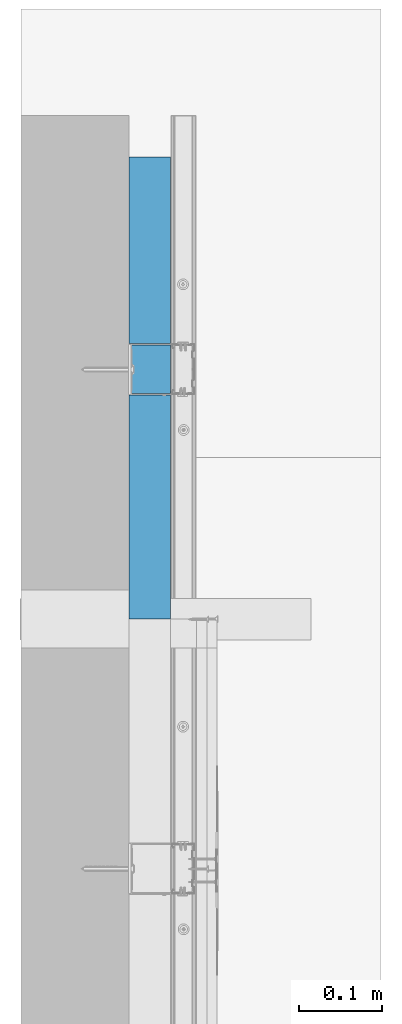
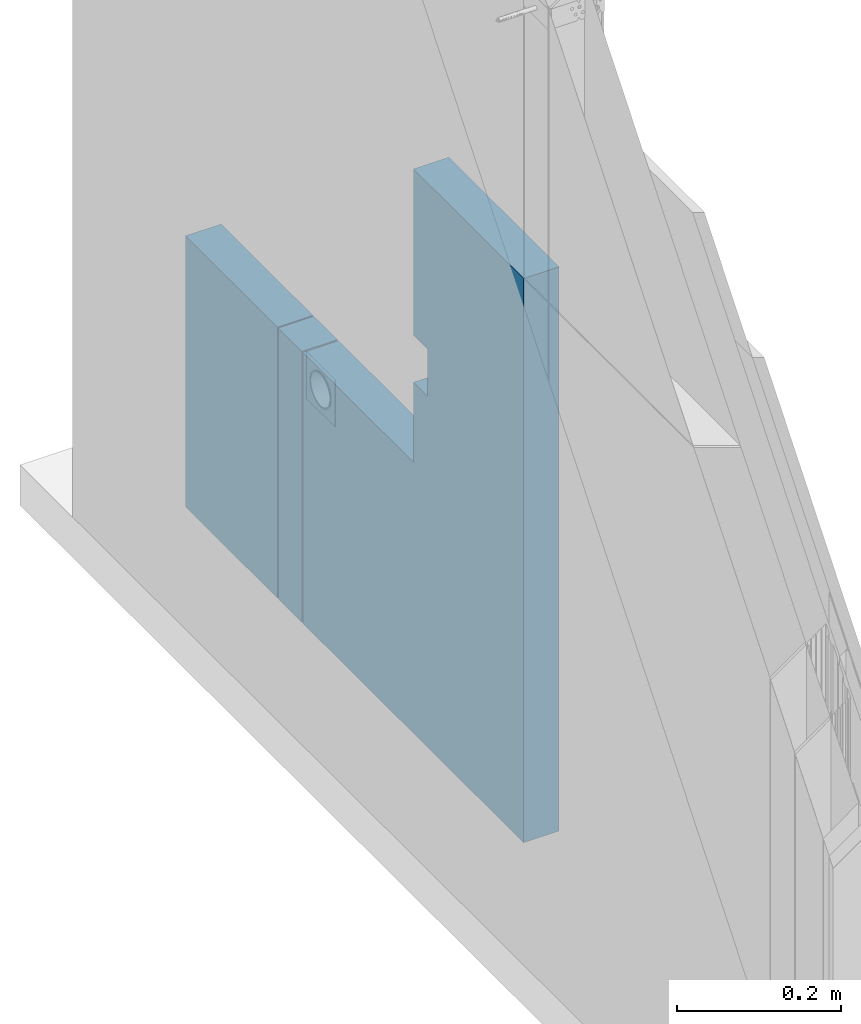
# One storey, part 11 of 61: 3 walls.
"""IFC2X3 building model written with IfcOpenShell, lengths in millimetres."""

import ifcopenshell
import ifcopenshell.guid

model = None  # the IFC model being written
_history = None  # IfcOwnerHistory: only IFC2X3 demands one
_inside = {}  # id of a spatial element -> (the spatial element, [elements in it])
_under = {}  # id of a project, library or spatial element -> (it, [spatial elements below it])
_declared = {}  # id of a project -> (the project, [libraries it declares])
_typed = {}  # id of a type object -> (the type object, [elements of that type])
_made_of = {}  # id of a material, layer set ... -> (it, [elements and type objects made of it])


def new_model(schema):
    """Start an empty IFC model of exactly this schema.

    Asked for "IFC4X3", IfcOpenShell would pick the latest addendum, in which some entities
    have other attributes; the version numbers below select the first issue.
    IFC2X3 requires an IfcOwnerHistory on every rooted entity: one is made here for all.
    """
    global model, _history
    if schema == "IFC4X3":
        model = ifcopenshell.file(schema_version=(4, 3, 0, 0))
    else:
        model = ifcopenshell.file(schema=schema)
    _inside.clear()
    _under.clear()
    _declared.clear()
    _typed.clear()
    _made_of.clear()
    _history = None
    if model.schema == "IFC2X3":
        org = make("IfcOrganization", Name="unknown")
        user = make(
            "IfcPersonAndOrganization",
            ThePerson=make("IfcPerson", FamilyName="unknown"),
            TheOrganization=org,
        )
        app = make(
            "IfcApplication",
            ApplicationDeveloper=org,
            Version="unknown",
            ApplicationFullName="unknown",
            ApplicationIdentifier="unknown",
        )
        _history = make(
            "IfcOwnerHistory",
            OwningUser=user,
            OwningApplication=app,
            ChangeAction="ADDED",
            CreationDate=0,
        )
    return model


def make(cls, **values):
    """One entity of the class cls with the attributes given. An attribute that is None is left unset."""
    return model.create_entity(
        cls, **{name: value for name, value in values.items() if value is not None}
    )


def rooted(cls, **values):
    """An entity with a GlobalId (a new one), such as an element, a storey or a relation."""
    return make(cls, GlobalId=ifcopenshell.guid.new(), OwnerHistory=_history, **values)


def si_unit(unit_type, name, prefix=None):
    """IfcSIUnit, for example si_unit("LENGTHUNIT", "METRE", prefix="MILLI")."""
    return make("IfcSIUnit", UnitType=unit_type, Prefix=prefix, Name=name)


def assignment(units):
    """IfcUnitAssignment: the units of a project."""
    return None if units is None else make("IfcUnitAssignment", Units=units)


def point(xyz):
    """IfcCartesianPoint."""
    return None if xyz is None else make("IfcCartesianPoint", Coordinates=xyz)


def direction(xyz):
    """IfcDirection."""
    return None if xyz is None else make("IfcDirection", DirectionRatios=xyz)


def frame(location, z_axis=None, x_axis=None):
    """IfcAxis2Placement3D, a coordinate frame: its origin and axes. An axis left out is left unset."""
    return make(
        "IfcAxis2Placement3D",
        Location=point(location),
        Axis=direction(z_axis),
        RefDirection=direction(x_axis),
    )


def origin_with_axes():
    """The frame at (0, 0, 0) with the z axis (0, 0, 1) and the x axis (1, 0, 0) written out."""
    return frame((0.0, 0.0, 0.0), z_axis=(0.0, 0.0, 1.0), x_axis=(1.0, 0.0, 0.0))


def place(relative_to, where):
    """IfcLocalPlacement: puts the frame where relative to a parent placement (None: the world)."""
    return make(
        "IfcLocalPlacement", PlacementRelTo=relative_to, RelativePlacement=where
    )


def context(
    kind, dimensions, precision=None, world=None, true_north=None, identifier=None
):
    """IfcGeometricRepresentationContext, for example the 3D "Model" context."""
    return make(
        "IfcGeometricRepresentationContext",
        ContextIdentifier=identifier,
        ContextType=kind,
        CoordinateSpaceDimension=dimensions,
        Precision=precision,
        WorldCoordinateSystem=world,
        TrueNorth=true_north,
    )


def subcontext(parent, identifier, kind, view, scale=None):
    """IfcGeometricRepresentationSubContext, for example "Body" below "Model"."""
    return make(
        "IfcGeometricRepresentationSubContext",
        ContextIdentifier=identifier,
        ContextType=kind,
        ParentContext=parent,
        TargetScale=scale,
        TargetView=view,
    )


def project(units=None, contexts=None):
    """IfcProject with its units and contexts."""
    return rooted(
        "IfcProject",
        Name="project",
        RepresentationContexts=contexts,
        UnitsInContext=assignment(units),
    )


def spatial(cls, under=None, at=None, **own):
    """A site, building, storey or space (cls), placed at a placement, below another one or the project."""
    s = rooted(cls, ObjectPlacement=at, **own)
    if under is not None:
        _under.setdefault(under.id(), (under, []))[1].append(s)
    return s


def faces_of(points, faces, orient=None, outer=None):
    """IfcFace entities. A face is a list of loops; a loop is a list of indices into points, from 0.

    orient and outer hold one flag for each loop. By default every Orientation is true, the
    first loop of a face is its IfcFaceOuterBound and the others are IfcFaceBound.
    """
    made = []
    for i, loops in enumerate(faces):
        bounds = []
        for j, loop in enumerate(loops):
            is_outer = j == 0 if outer is None else outer[i][j]
            bounds.append(
                make(
                    "IfcFaceOuterBound" if is_outer else "IfcFaceBound",
                    Bound=make("IfcPolyLoop", Polygon=[points[k] for k in loop]),
                    Orientation=True if orient is None else orient[i][j],
                )
            )
        made.append(make("IfcFace", Bounds=bounds))
    return made


def faceted_brep(points, faces, orient=None, outer=None, voids=None):
    """IfcFacetedBrep: a solid bounded by flat faces; with voids (closed shells), ...WithVoids."""
    shared = [point(p) for p in points]
    hull = make("IfcClosedShell", CfsFaces=faces_of(shared, faces, orient, outer))
    if voids is None:
        return make("IfcFacetedBrep", Outer=hull)
    return make(
        "IfcFacetedBrepWithVoids",
        Outer=hull,
        Voids=[
            make(cls, CfsFaces=faces_of(shared, fs, o, b)) for cls, fs, o, b in voids
        ],
    )


def shape(context_of_items, identifier, shape_type, items):
    """IfcShapeRepresentation: the items that make up one representation, for example the "Body"."""
    return make(
        "IfcShapeRepresentation",
        ContextOfItems=context_of_items,
        RepresentationIdentifier=identifier,
        RepresentationType=shape_type,
        Items=items,
    )


def material(Name=None, Category=None):
    """IfcMaterial."""
    return make("IfcMaterial", Name=Name, Category=Category)


def made_of(thing, what):
    """Note that an element or type object is made of a material, layer set ...; save() writes the relation."""
    if what is not None:
        _made_of.setdefault(what.id(), (what, []))[1].append(thing)
    return thing


def type_object(cls, material=None, **own):
    """A type object (cls), such as IfcWallType, which elements share."""
    return made_of(rooted(cls, **own), material)


def element(
    cls,
    number,
    at=None,
    inside=None,
    cuts=None,
    type_object=None,
    material=None,
    context=None,
    identifier="Body",
    shape_type=None,
    held_by="IfcProductDefinitionShape",
    body=None,
    shapes=None,
    **own,
):
    """One element of the class cls, such as IfcWall. Its Tag is "e" and its number.

    at: its placement. inside: the storey or other place that contains it. cuts: it is an
    opening in that element (IfcRelVoidsElement). A single representation is given by context,
    identifier, shape_type and body (its items); several are given by shapes. held_by: the class
    of the entity that holds the representations. save() writes the other relations.
    """
    e = rooted(cls, Tag="e%d" % number, ObjectPlacement=at, **own)
    if body is not None:
        shapes = [shape(context, identifier, shape_type, body)]
    if shapes is not None:
        e.Representation = make(held_by, Representations=shapes)
    if inside is not None:
        _inside.setdefault(inside.id(), (inside, []))[1].append(e)
    if cuts is not None:
        rooted(
            "IfcRelVoidsElement", RelatingBuildingElement=cuts, RelatedOpeningElement=e
        )
    if type_object is not None:
        _typed.setdefault(type_object.id(), (type_object, []))[1].append(e)
    return made_of(e, material)


def aggregate(whole, parts):
    """IfcRelAggregates: a whole, such as a stair, and the parts it consists of."""
    return rooted("IfcRelAggregates", RelatingObject=whole, RelatedObjects=parts)


def save(model, path):
    """Write the relations noted so far, then the file.

    IfcRelAggregates (storeys below a building ...), IfcRelContainedInSpatialStructure (elements
    in a storey), IfcRelDefinesByType, IfcRelAssociatesMaterial and IfcRelDeclares: one each for
    every whole, place, type object, material and project.
    """
    for whole, parts in _under.values():
        aggregate(whole, parts)
    for where, things in _inside.values():
        rooted(
            "IfcRelContainedInSpatialStructure",
            RelatedElements=things,
            RelatingStructure=where,
        )
    for kind, things in _typed.values():
        rooted("IfcRelDefinesByType", RelatedObjects=things, RelatingType=kind)
    for what, things in _made_of.values():
        rooted("IfcRelAssociatesMaterial", RelatedObjects=things, RelatingMaterial=what)
    for by, libraries in _declared.values():
        rooted("IfcRelDeclares", RelatingContext=by, RelatedDefinitions=libraries)
    model.write(path)


model = new_model("IFC2X3")

# Units and contexts
model_context = context("Model", 3, world=origin_with_axes())
body_context = subcontext(model_context, "Body", "Model", "MODEL_VIEW")
ifc_project = project(units=[si_unit("LENGTHUNIT", "METRE", prefix="MILLI"), si_unit("AREAUNIT", "SQUARE_METRE"), si_unit("VOLUMEUNIT", "CUBIC_METRE")], contexts=[model_context])

# Site, building, storey
site_placement = place(None, frame((2152.1410261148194, -2015.0250894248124, 57.61556563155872), z_axis=(0.0, 0.0, 1.0), x_axis=(-1.1102230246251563e-16, 1.0, 0.0)))
site = spatial("IfcSite", under=ifc_project, at=site_placement, Name="Default Site", CompositionType="ELEMENT")
building_placement = place(site_placement, origin_with_axes())
building = spatial("IfcBuilding", under=site, at=building_placement, Name="Default Building", CompositionType="ELEMENT")
storey_placement = place(building_placement, origin_with_axes())
storey = spatial("IfcBuildingStorey", under=building, at=storey_placement, Name="Default Building Storey", CompositionType="ELEMENT", Elevation=57.61556563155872)

# Walls
ifc_material = material(Name="Undefined")
wall_type_1 = type_object("IfcWallType", Name="Wypełnienie z wełny mineralnej szklanej ISOVER#1", PredefinedType="NOTDEFINED")
wall_1_placement = place(storey_placement, frame((3288.4720203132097, 5350.424146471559, -7.900000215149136), z_axis=(0.0, 0.0, 1.0), x_axis=(-1.0, 4.718447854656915e-16, 0.0)))
element("IfcWall", 1, at=wall_1_placement, inside=storey, type_object=wall_type_1, material=ifc_material, Name="Wypełnienie z wełny mineralnej szklanej ISOVER", context=body_context, shape_type="Brep", body=[
    faceted_brep([(-180.46054244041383, 3328.283263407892, 10.284026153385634), (-180.46054244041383, 3378.283262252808, 10.284026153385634), (-180.46054244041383, 3378.283262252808, 413.51023447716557), (-180.46054244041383, 3328.283263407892, 413.51023447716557), (-404.5686125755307, 3328.283263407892, 413.51023447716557), (-404.5686125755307, 3378.283262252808, 413.51023447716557), (-404.5686125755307, 3378.283262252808, 10.284026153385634), (-404.5686125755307, 3328.283263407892, 10.284026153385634)], [[[0, 1, 2, 3]], [[4, 5, 6, 7]], [[4, 3, 2, 5]]]),
    faceted_brep([(-404.5686125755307, 3378.283262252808, 413.51023447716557), (-180.46054244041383, 3378.283262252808, 413.51023447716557), (-180.46054244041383, 3378.283262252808, 10.284026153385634), (-404.5686125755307, 3378.283262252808, 10.284026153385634), (-180.46054244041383, 3328.283263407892, 10.284026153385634), (-404.5686125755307, 3328.283263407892, 10.284026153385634), (-180.46054244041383, 3328.283263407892, 413.51023447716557), (-404.5686125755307, 3328.283263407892, 413.51023447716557)], [[[0, 1, 2, 3]], [[3, 2, 4, 5]], [[5, 4, 6, 7]]]),
])
wall_type_2 = type_object("IfcWallType", Name="Wypełnienie z wełny mineralnej szklanej ISOVER#13", PredefinedType="NOTDEFINED")
wall_2_placement = place(storey_placement, frame((3241.176545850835, 5350.424146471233, -7.900000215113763), z_axis=(0.0, 0.0, 1.0), x_axis=(-1.0, 4.718447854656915e-16, 0.0)))
element("IfcWall", 2, at=wall_2_placement, inside=storey, type_object=wall_type_2, material=ifc_material, Name="Wypełnienie z wełny mineralnej szklanej ISOVER", context=body_context, shape_type="Brep", body=[
    faceted_brep([(-168.12478005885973, 3328.2832634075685, 413.5102344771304), (-225.82477331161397, 3328.2832634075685, 413.5102344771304), (-225.82477331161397, 3328.2832634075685, 10.28402615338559), (-168.12478005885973, 3328.2832634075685, 10.28402615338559), (-225.82477331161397, 3378.283168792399, 413.5102344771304), (-168.12478005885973, 3378.2831687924, 413.5102344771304), (-168.12478005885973, 3378.2831687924, 10.28402615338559), (-225.82477331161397, 3378.283168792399, 10.28402615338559)], [[[0, 1, 2, 3]], [[4, 5, 6, 7]], [[7, 6, 3, 2]]]),
    faceted_brep([(-168.12478005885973, 3328.2832634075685, 10.28402615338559), (-168.12478005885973, 3378.2831687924, 10.28402615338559), (-168.12478005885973, 3378.2831687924, 413.5102344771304), (-168.12478005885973, 3328.2832634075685, 413.5102344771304), (-225.82477331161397, 3328.2832634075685, 413.5102344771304), (-225.82477331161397, 3378.283168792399, 413.5102344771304), (-225.82477331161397, 3378.283168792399, 10.28402615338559), (-225.82477331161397, 3328.2832634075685, 10.28402615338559)], [[[0, 1, 2, 3]], [[4, 5, 6, 7]], [[4, 3, 2, 5]]]),
])
wall_type_3 = type_object("IfcWallType", Name="Wypełnienie z wełny mineralnej szklanej ISOVER#16", PredefinedType="NOTDEFINED")
wall_3_placement = place(storey_placement, frame((2702.576545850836, 5350.42414647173, -7.900000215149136), z_axis=(0.0, 0.0, 1.0), x_axis=(-1.0, 4.718447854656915e-16, 0.0)))
element("IfcWall", 3, at=wall_3_placement, inside=storey, type_object=wall_type_3, material=ifc_material, Name="Wypełnienie z wełny mineralnej szklanej ISOVER", context=body_context, shape_type="Brep", body=[
    faceted_brep([(-166.46054244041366, 3328.2832634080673, 10.28402615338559), (-166.46054244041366, 3378.2831687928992, 10.28402615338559), (-166.46054244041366, 3378.2831687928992, 849.5436077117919), (-166.46054244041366, 3328.2832634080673, 849.5436077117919), (-435.4605332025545, 3328.283263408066, 413.5102344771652), (-435.46053320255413, 3328.283263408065, 532.2275177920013), (-435.4605332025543, 3378.2831687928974, 532.2275177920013), (-435.4605332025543, 3378.283168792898, 413.5102344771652), (-435.4605332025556, 3328.2832634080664, 849.5436077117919), (-435.4605332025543, 3378.283168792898, 849.5436077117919), (-704.4605332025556, 3328.2832634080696, 10.28402615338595), (-704.4605332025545, 3328.2832634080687, 413.51023447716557), (-704.4605332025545, 3378.2831687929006, 413.51023447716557), (-704.4605332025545, 3378.2831687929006, 10.28402615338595), (-435.4605332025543, 3378.283168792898, 602.2146469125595), (-435.46053320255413, 3328.283263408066, 602.2146469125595)], [[[0, 1, 2, 3]], [[4, 5, 6, 7]], [[8, 3, 2, 9]], [[10, 11, 12, 13]], [[4, 7, 12, 11]], [[14, 15, 8, 9]]]),
    faceted_brep([(-704.4605332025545, 3378.2831687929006, 10.28402615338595), (-166.46054244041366, 3378.2831687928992, 10.28402615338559), (-166.46054244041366, 3328.2832634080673, 10.28402615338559), (-704.4605332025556, 3328.2832634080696, 10.28402615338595), (-166.46054244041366, 3328.2832634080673, 849.5436077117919), (-435.4605332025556, 3328.2832634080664, 849.5436077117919), (-435.46053320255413, 3328.283263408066, 602.2146469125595), (-400.32503711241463, 3328.2832634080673, 602.2146469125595), (-400.32503711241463, 3328.2832634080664, 532.2275177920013), (-435.46053320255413, 3328.283263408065, 532.2275177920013), (-435.4605332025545, 3328.283263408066, 413.5102344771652), (-704.4605332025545, 3328.2832634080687, 413.51023447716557), (-435.4605332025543, 3378.283168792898, 413.5102344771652), (-435.4605332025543, 3378.2831687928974, 532.2275177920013), (-400.32503711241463, 3378.283168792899, 532.2275177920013), (-400.32503711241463, 3378.2831687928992, 602.2146469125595), (-435.4605332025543, 3378.283168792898, 602.2146469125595), (-435.4605332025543, 3378.283168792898, 849.5436077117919), (-166.46054244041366, 3378.2831687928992, 849.5436077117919), (-704.4605332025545, 3378.2831687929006, 413.51023447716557)], [[[0, 1, 2, 3]], [[3, 2, 4, 5, 6, 7, 8, 9, 10, 11]], [[12, 13, 14, 15, 16, 17, 18, 1, 0, 19]]]),
    faceted_brep([(-435.4605332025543, 3378.2831687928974, 532.2275177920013), (-400.32503711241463, 3378.283168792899, 532.2275177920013), (-400.32503711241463, 3328.2832634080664, 532.2275177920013), (-435.46053320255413, 3328.283263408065, 532.2275177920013)], [[[0, 1, 2, 3]]]),
    faceted_brep([(-400.32503711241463, 3378.283168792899, 532.2275177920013), (-400.32503711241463, 3328.2832634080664, 532.2275177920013), (-400.32503711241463, 3328.2832634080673, 602.2146469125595), (-400.32503711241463, 3378.2831687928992, 602.2146469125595), (-435.4605332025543, 3378.283168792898, 602.2146469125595), (-435.46053320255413, 3328.283263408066, 602.2146469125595)], [[[0, 1, 2, 3]], [[4, 3, 2, 5]]]),
])

save(model, "model.ifc")
